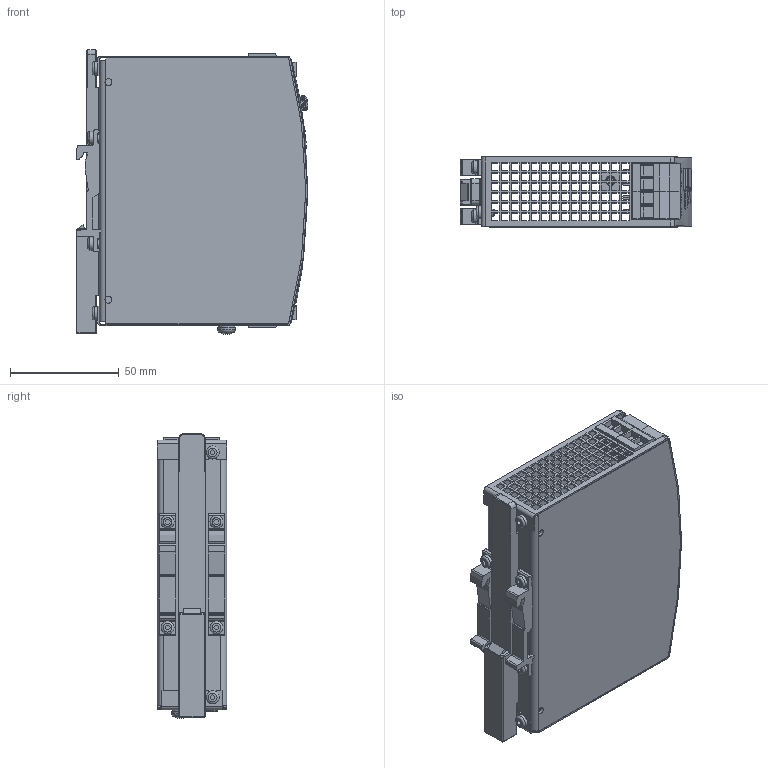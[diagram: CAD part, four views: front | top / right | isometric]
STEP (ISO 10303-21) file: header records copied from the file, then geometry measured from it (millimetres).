
FILE_DESCRIPTION(/* description */ (''),/* implementation_level */ '2;1');
FILE_NAME(/* name */ 'L:\MKT-GER\Neue Webdokumente\Daten von KO\CP5.241-C1 (435.09)\md3_cp5_241-c1.stp',/* time_stamp */ '2018-01-08T14:28:25+01:00',/* author */ ('rahns'),/* organization */ (''),/* preprocessor_version */ 'ST-DEVELOPER v17',/* originating_system */ 'Autodesk Inventor 2018',/* authorisation */ '');
FILE_SCHEMA (('CONFIG_CONTROL_DESIGN'));
Products named in the file (14): 435.09; HOUSING BODY 435.00; MKT_SLIDER; MKT_T HOLDER; MKT_SCREW 3x6; HOUSING COVER 435.00; FRONTFOIL 435.00; MKT_SCREW 4x8; MKT_SPRING WASHER A4; MKT_LP2BK-D1; MKT_LP3BK-D1; MKT_LED GN; MKT_POTI COVER; MKT_LP2SW-R6
Assembly tree (20 placements, depth 2):
  435.09
    HOUSING BODY 435.00
    MKT_SLIDER
    MKT_SCREW 3x6  x6
    MKT_T HOLDER  x2
    HOUSING COVER 435.00
    FRONTFOIL 435.00
    MKT_SCREW 4x8
    MKT_SPRING WASHER A4
    MKT_LP2BK-D1  x2
    MKT_LP3BK-D1
    MKT_LED GN
    MKT_POTI COVER
    MKT_LP2SW-R6
Bounding box: 106.6 x 32 x 130.77 mm (x, y, z)
Volume: 69596.8 mm3; surface area: 91495.1 mm2
Topology: 21 solids, 21 shells, 2089 faces, 5782 edges, 3840 vertices
Faces by surface type: plane 1598, cylinder 222, bspline 207, torus 25, cone 24, sphere 13
Full cylindrical faces by diameter (mm): 0.3 x4, 2.45 x2, 2.7 x1, 3 x6, 3.1 x4, 3.2 x3, 3.621 x1, 4 x1, 4.355 x1, 4.5 x2, 4.6 x1, 5.15 x7, 6 x6
Entity records: 68327 total; most frequent: CARTESIAN_POINT 19900, ORIENTED_EDGE 10334, DIRECTION 8764, EDGE_CURVE 5167, LINE 4010, VECTOR 4010, VERTEX_POINT 3422, AXIS2_PLACEMENT_3D 2377
